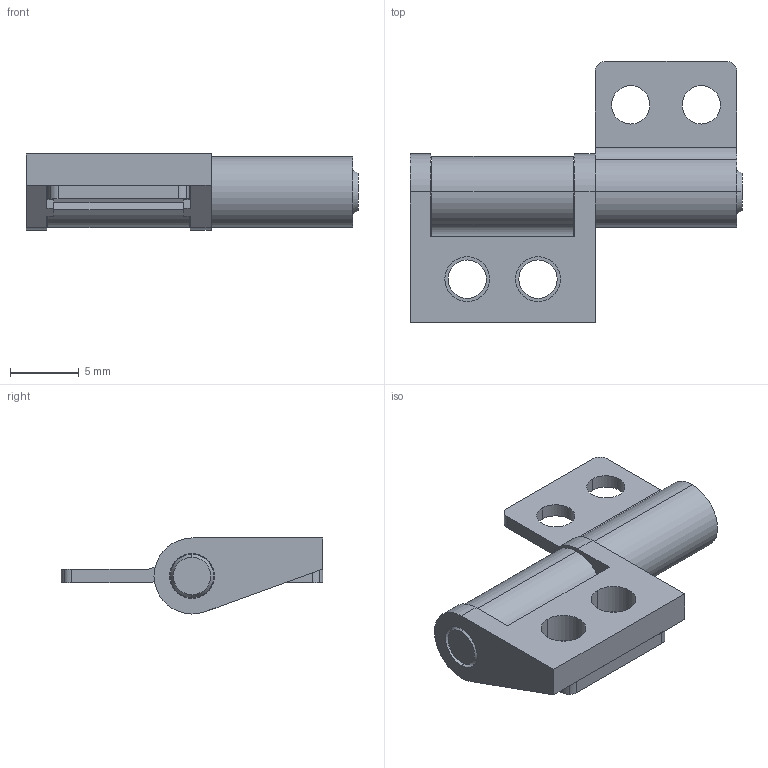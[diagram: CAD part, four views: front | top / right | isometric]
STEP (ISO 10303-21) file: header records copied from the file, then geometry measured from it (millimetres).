
FILE_DESCRIPTION(('STEP AP214'),'1');
FILE_NAME('C:/Users/HAN/Desktop/0500-0402-HNG L Rev 0_0.stp','2014-01-02T19:25:15',(' '),(' '),'Spatial InterOp 3D',' ',' ');
FILE_SCHEMA(('automotive_design'));
Length unit declared in the file: inch
Products named in the file (4): 0500-0002-SHA Rev 0_0; 0500-0001-BND Rev 0_0; 0500-0001-HOU Rev 0_0
Bounding box: 24.19 x 19.05 x 5.54 mm (x, y, z)
Volume: 798 mm3; surface area: 1601.4 mm2
Topology: 4 solids, 4 shells, 82 faces, 216 edges, 142 vertices
Faces by surface type: cylinder 46, plane 32, cone 4
Entity records: 3317 total; most frequent: DIRECTION 484, CARTESIAN_POINT 444, ORIENTED_EDGE 432, EDGE_CURVE 216, AXIS2_PLACEMENT_3D 182, VERTEX_POINT 142, LINE 120, VECTOR 120
